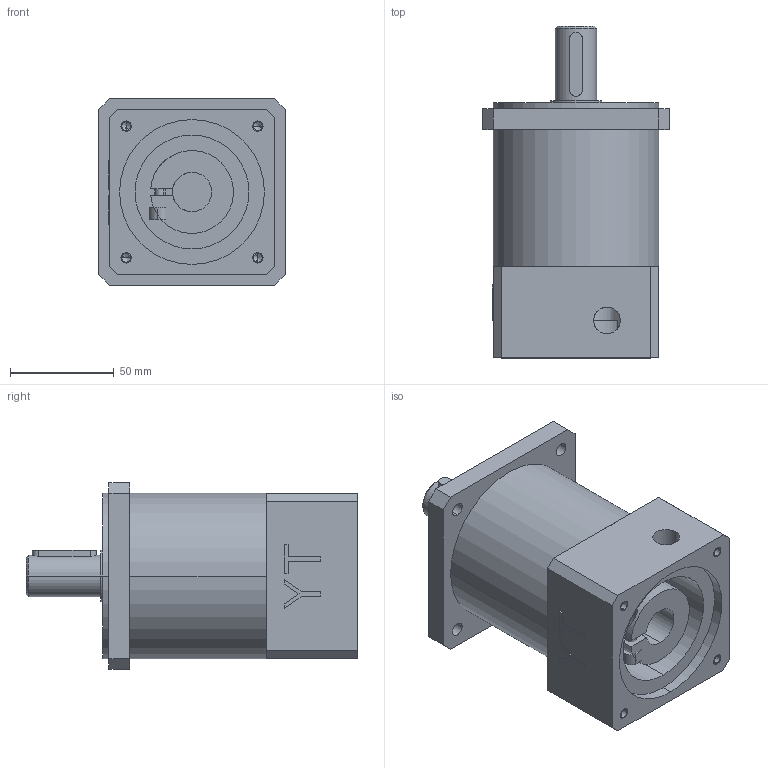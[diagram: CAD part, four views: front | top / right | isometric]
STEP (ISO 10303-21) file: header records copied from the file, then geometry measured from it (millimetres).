
FILE_DESCRIPTION((''),'2;1');
FILE_NAME('PF80L2_ASM','2014-12-27T',('Administrator'),(''),'PRO/ENGINEER BY PARAMETRIC TECHNOLOGY CORPORATION, 2013430','PRO/ENGINEER BY PARAMETRIC TECHNOLOGY CORPORATION, 2013430','');
FILE_SCHEMA(('CONFIG_CONTROL_DESIGN'));
Length unit declared in the file: millimetre
Products named in the file (6): ZHU; XIANTI80L2; LIANZHU; LUOSI; FLAND; PF80L2_ASM
Assembly tree (5 placements, depth 2):
  PF80L2_ASM
    ZHU
    XIANTI80L2
    LIANZHU
    LUOSI
    FLAND
Bounding box: 90 x 160.3 x 90 mm (x, y, z)
Volume: 631763.5 mm3; surface area: 91280.8 mm2
Topology: 5 solids, 10 shells, 136 faces, 337 edges, 219 vertices
Faces by surface type: plane 69, cylinder 55, cone 12
Entity records: 4288 total; most frequent: CARTESIAN_POINT 810, DIRECTION 743, ORIENTED_EDGE 634, EDGE_CURVE 327, AXIS2_PLACEMENT_3D 271, VERTEX_POINT 219, VECTOR 201, LINE 201
